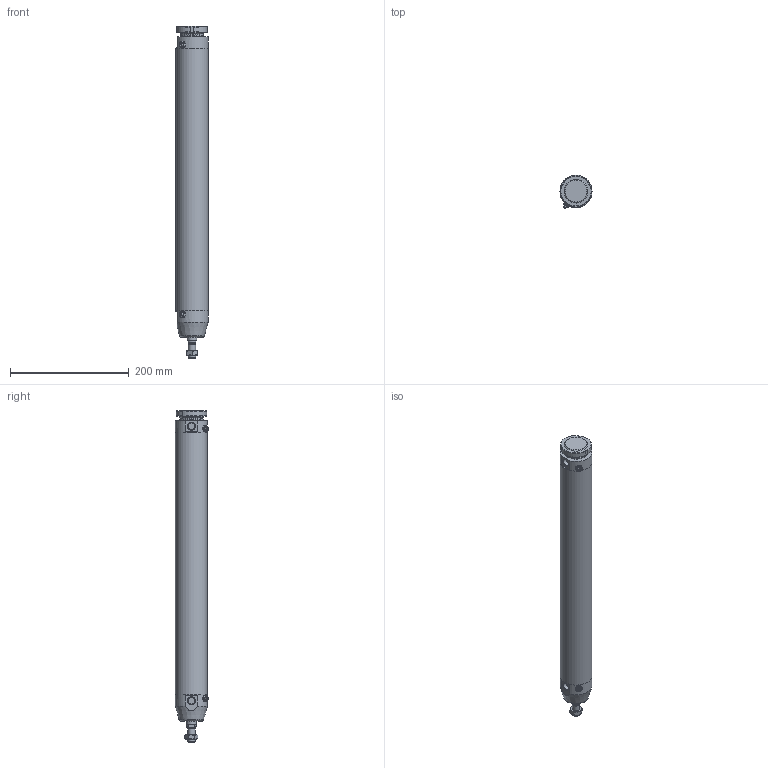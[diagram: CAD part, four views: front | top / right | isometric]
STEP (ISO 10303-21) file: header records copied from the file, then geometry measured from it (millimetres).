
FILE_DESCRIPTION(/* description */ (''),/* implementation_level */ '2;1');
FILE_NAME(/* name */ 'I:\Area Tecnica\Documenti\A-Manieri\_Inventor\12X\12X#B_###_####_#_#\12XBB_050_0400_#_#.stp',/* time_stamp */ '2015-04-28T14:29:25+02:00',/* author */ ('maniean1'),/* organization */ ('Pneumax S.p.A.'),/* preprocessor_version */ 'ST-DEVELOPER v15.2',/* originating_system */ 'Autodesk Inventor 2014',/* authorisation */ '');
FILE_SCHEMA (('AUTOMOTIVE_DESIGN { 1 0 10303 214 3 1 1 }'));
Length unit declared in the file: millimetre
Products named in the file (7): C1250_619-0400; 12X50_614; S12X50_0400; 12X_50_11; 12X50_621; G12X_050_05; 12XBB_050_0400_#_#
Bounding box: 54 x 55.88 x 560 mm (x, y, z)
Volume: 478663.7 mm3; surface area: 208178.8 mm2
Topology: 6 solids, 6 shells, 98 faces, 217 edges, 140 vertices
Faces by surface type: plane 52, cylinder 24, cone 19, torus 3
Full cylindrical faces by diameter (mm): 5 x2, 10.2 x1, 11 x2, 11.4 x2, 12 x2, 14 x1, 15.6 x1, 16 x1, 38.2 x1, 40 x3, 50 x2, 54 x3
Entity records: 2646 total; most frequent: CARTESIAN_POINT 539, DIRECTION 439, ORIENTED_EDGE 346, AXIS2_PLACEMENT_3D 186, EDGE_CURVE 173, EDGE_LOOP 150, VERTEX_POINT 131, ADVANCED_FACE 98
